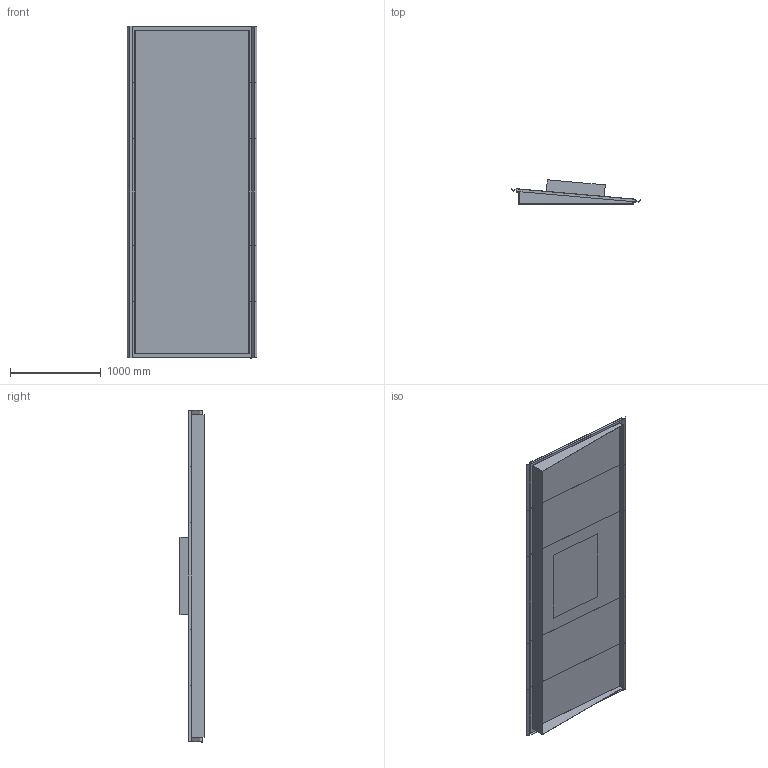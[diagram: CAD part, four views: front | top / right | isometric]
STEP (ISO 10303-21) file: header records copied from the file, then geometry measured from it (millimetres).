
FILE_DESCRIPTION(/* description */ (''),/* implementation_level */ '2;1');
FILE_NAME(/* name */ 'Z:\Output\AIR1-AAD_XH_5500-06349-001.stp',/* time_stamp */ '2020-06-25T11:04:23+02:00',/* author */ ('engineering2'),/* organization */ (''),/* preprocessor_version */ 'ST-DEVELOPER v17.2',/* originating_system */ 'Autodesk Inventor 2019',/* authorisation */ '');
FILE_SCHEMA (('AUTOMOTIVE_DESIGN { 1 0 10303 214 3 1 1 }'));
Length unit declared in the file: millimetre
Products named in the file (1): AIR1-AAD-RH-1
Bounding box: 1428 x 265 x 3660 mm (x, y, z)
Volume: 92654274.1 mm3; surface area: 23473279.6 mm2
Topology: 7 solids, 7 shells, 107 faces, 268 edges, 176 vertices
Faces by surface type: plane 99, cylinder 8
Entity records: 3169 total; most frequent: CARTESIAN_POINT 552, ORIENTED_EDGE 536, DIRECTION 500, EDGE_CURVE 268, LINE 252, VECTOR 252, VERTEX_POINT 176, AXIS2_PLACEMENT_3D 124
